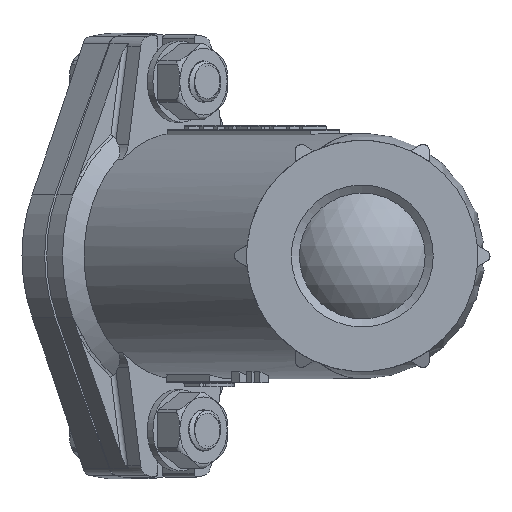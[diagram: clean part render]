
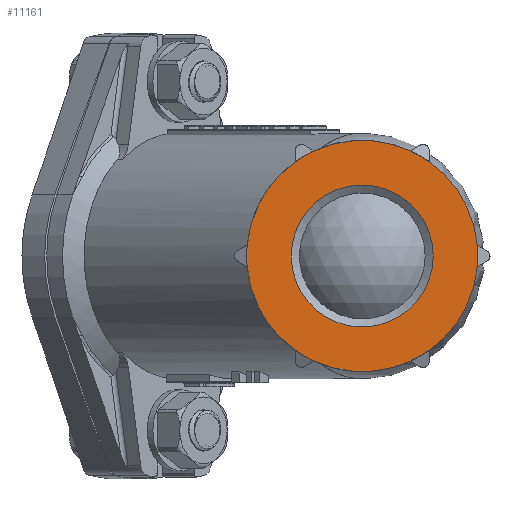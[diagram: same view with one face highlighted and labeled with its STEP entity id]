
A CAD part, left-side view. The second image highlights one B-rep face of the part: STEP entity #11161.
In plain terms, the highlighted planar face has unit normal (-1, 0, 0).
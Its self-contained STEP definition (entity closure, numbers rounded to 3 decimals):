
#91=PLANE('',#12141);
#450=FACE_BOUND('',#3833,.T.);
#3135=FACE_OUTER_BOUND('',#3832,.T.);
#3832=EDGE_LOOP('',(#8645,#8646,#8647,#8648,#8649,#8650,#8651,#8652,#8653,
#8654,#8655,#8656));
#3833=EDGE_LOOP('',(#8657,#8658));
#4453=CIRCLE('',#11906,17.5);
#4454=CIRCLE('',#11907,17.5);
#4504=CIRCLE('',#11981,28.5);
#4544=CIRCLE('',#12045,28.5);
#4545=CIRCLE('',#12048,28.5);
#4551=CIRCLE('',#12090,28.5);
#4552=CIRCLE('',#12092,28.5);
#4553=CIRCLE('',#12097,28.5);
#4554=CIRCLE('',#12099,28.5);
#4555=CIRCLE('',#12104,28.5);
#4556=CIRCLE('',#12106,28.5);
#4557=CIRCLE('',#12111,28.5);
#4558=CIRCLE('',#12114,28.5);
#4575=CIRCLE('',#12140,28.5);
#4893=VERTEX_POINT('',#17038);
#4894=VERTEX_POINT('',#17040);
#4980=VERTEX_POINT('',#17841);
#4981=VERTEX_POINT('',#17843);
#5173=VERTEX_POINT('',#18676);
#5174=VERTEX_POINT('',#18678);
#5175=VERTEX_POINT('',#18682);
#5210=VERTEX_POINT('',#18813);
#5211=VERTEX_POINT('',#18817);
#5212=VERTEX_POINT('',#18820);
#5213=VERTEX_POINT('',#18829);
#5214=VERTEX_POINT('',#18831);
#5215=VERTEX_POINT('',#18840);
#5216=VERTEX_POINT('',#18842);
#6075=EDGE_CURVE('',#4893,#4894,#4453,.T.);
#6076=EDGE_CURVE('',#4894,#4893,#4454,.T.);
#6180=EDGE_CURVE('',#4981,#4980,#4504,.T.);
#6394=EDGE_CURVE('',#5173,#5174,#4544,.T.);
#6396=EDGE_CURVE('',#5175,#5173,#4545,.T.);
#6461=EDGE_CURVE('',#5210,#5175,#4551,.T.);
#6466=EDGE_CURVE('',#5211,#5212,#4552,.T.);
#6469=EDGE_CURVE('',#5174,#5211,#4553,.T.);
#6472=EDGE_CURVE('',#5213,#5214,#4554,.T.);
#6475=EDGE_CURVE('',#5212,#5213,#4555,.T.);
#6478=EDGE_CURVE('',#5215,#5216,#4556,.T.);
#6481=EDGE_CURVE('',#5214,#5215,#4557,.T.);
#6483=EDGE_CURVE('',#5216,#4981,#4558,.T.);
#6519=EDGE_CURVE('',#4980,#5210,#4575,.T.);
#8645=ORIENTED_EDGE('',*,*,#6519,.T.);
#8646=ORIENTED_EDGE('',*,*,#6461,.T.);
#8647=ORIENTED_EDGE('',*,*,#6396,.T.);
#8648=ORIENTED_EDGE('',*,*,#6394,.T.);
#8649=ORIENTED_EDGE('',*,*,#6469,.T.);
#8650=ORIENTED_EDGE('',*,*,#6466,.T.);
#8651=ORIENTED_EDGE('',*,*,#6475,.T.);
#8652=ORIENTED_EDGE('',*,*,#6472,.T.);
#8653=ORIENTED_EDGE('',*,*,#6481,.T.);
#8654=ORIENTED_EDGE('',*,*,#6478,.T.);
#8655=ORIENTED_EDGE('',*,*,#6483,.T.);
#8656=ORIENTED_EDGE('',*,*,#6180,.T.);
#8657=ORIENTED_EDGE('',*,*,#6076,.F.);
#8658=ORIENTED_EDGE('',*,*,#6075,.F.);
#11161=ADVANCED_FACE('',(#3135,#450),#91,.T.);
#11906=AXIS2_PLACEMENT_3D('',#17041,#13406,#13407);
#11907=AXIS2_PLACEMENT_3D('',#17042,#13408,#13409);
#11981=AXIS2_PLACEMENT_3D('',#17844,#13569,#13570);
#12045=AXIS2_PLACEMENT_3D('',#18680,#13803,#13804);
#12048=AXIS2_PLACEMENT_3D('',#18684,#13809,#13810);
#12090=AXIS2_PLACEMENT_3D('',#18814,#13946,#13947);
#12092=AXIS2_PLACEMENT_3D('',#18822,#13954,#13955);
#12097=AXIS2_PLACEMENT_3D('',#18827,#13964,#13965);
#12099=AXIS2_PLACEMENT_3D('',#18833,#13970,#13971);
#12104=AXIS2_PLACEMENT_3D('',#18838,#13980,#13981);
#12106=AXIS2_PLACEMENT_3D('',#18844,#13986,#13987);
#12111=AXIS2_PLACEMENT_3D('',#18849,#13996,#13997);
#12114=AXIS2_PLACEMENT_3D('',#18852,#14002,#14003);
#12140=AXIS2_PLACEMENT_3D('',#18954,#14067,#14068);
#12141=AXIS2_PLACEMENT_3D('',#18955,#14069,#14070);
#13406=DIRECTION('center_axis',(-1.,0.,0.));
#13407=DIRECTION('ref_axis',(0.,0.,1.));
#13408=DIRECTION('center_axis',(-1.,0.,0.));
#13409=DIRECTION('ref_axis',(0.,0.,1.));
#13569=DIRECTION('center_axis',(-1.,0.,0.));
#13570=DIRECTION('ref_axis',(0.,0.,1.));
#13803=DIRECTION('center_axis',(-1.,0.,0.));
#13804=DIRECTION('ref_axis',(0.,0.,1.));
#13809=DIRECTION('center_axis',(-1.,0.,0.));
#13810=DIRECTION('ref_axis',(0.,0.,1.));
#13946=DIRECTION('center_axis',(-1.,0.,0.));
#13947=DIRECTION('ref_axis',(0.,0.,1.));
#13954=DIRECTION('center_axis',(-1.,0.,0.));
#13955=DIRECTION('ref_axis',(0.,0.,1.));
#13964=DIRECTION('center_axis',(-1.,0.,0.));
#13965=DIRECTION('ref_axis',(0.,0.,1.));
#13970=DIRECTION('center_axis',(-1.,0.,0.));
#13971=DIRECTION('ref_axis',(0.,0.,1.));
#13980=DIRECTION('center_axis',(-1.,0.,0.));
#13981=DIRECTION('ref_axis',(0.,0.,1.));
#13986=DIRECTION('center_axis',(-1.,0.,0.));
#13987=DIRECTION('ref_axis',(0.,0.,1.));
#13996=DIRECTION('center_axis',(-1.,0.,0.));
#13997=DIRECTION('ref_axis',(0.,0.,1.));
#14002=DIRECTION('center_axis',(-1.,0.,0.));
#14003=DIRECTION('ref_axis',(0.,0.,1.));
#14067=DIRECTION('center_axis',(-1.,0.,0.));
#14068=DIRECTION('ref_axis',(0.,0.,1.));
#14069=DIRECTION('center_axis',(-1.,0.,0.));
#14070=DIRECTION('ref_axis',(0.,0.,1.));
#17038=CARTESIAN_POINT('',(0.,0.,
-17.5));
#17040=CARTESIAN_POINT('',(0.,0.,17.5));
#17041=CARTESIAN_POINT('Origin',(0.,0.,0.));
#17042=CARTESIAN_POINT('Origin',(0.,0.,0.));
#17841=CARTESIAN_POINT('',(0.,11.875,25.908));
#17843=CARTESIAN_POINT('',(0.,-11.875,25.908));
#17844=CARTESIAN_POINT('Origin',(0.,0.,0.));
#18676=CARTESIAN_POINT('',(0.,28.375,-2.67));
#18678=CARTESIAN_POINT('',(0.,16.5,-23.238));
#18680=CARTESIAN_POINT('Origin',(0.,0.,0.));
#18682=CARTESIAN_POINT('',(0.,28.375,2.67));
#18684=CARTESIAN_POINT('Origin',(0.,0.,0.));
#18813=CARTESIAN_POINT('',(0.,16.5,23.238));
#18814=CARTESIAN_POINT('Origin',(0.,0.,0.));
#18817=CARTESIAN_POINT('',(0.,11.875,-25.908));
#18820=CARTESIAN_POINT('',(0.,-11.875,-25.908));
#18822=CARTESIAN_POINT('Origin',(0.,0.,0.));
#18827=CARTESIAN_POINT('Origin',(0.,0.,0.));
#18829=CARTESIAN_POINT('',(0.,-16.5,-23.238));
#18831=CARTESIAN_POINT('',(0.,-28.375,-2.67));
#18833=CARTESIAN_POINT('Origin',(0.,0.,0.));
#18838=CARTESIAN_POINT('Origin',(0.,0.,0.));
#18840=CARTESIAN_POINT('',(0.,-28.375,2.67));
#18842=CARTESIAN_POINT('',(0.,-16.5,23.238));
#18844=CARTESIAN_POINT('Origin',(0.,0.,0.));
#18849=CARTESIAN_POINT('Origin',(0.,0.,0.));
#18852=CARTESIAN_POINT('Origin',(0.,0.,0.));
#18954=CARTESIAN_POINT('Origin',(0.,0.,0.));
#18955=CARTESIAN_POINT('Origin',(0.,-17.5,0.));
